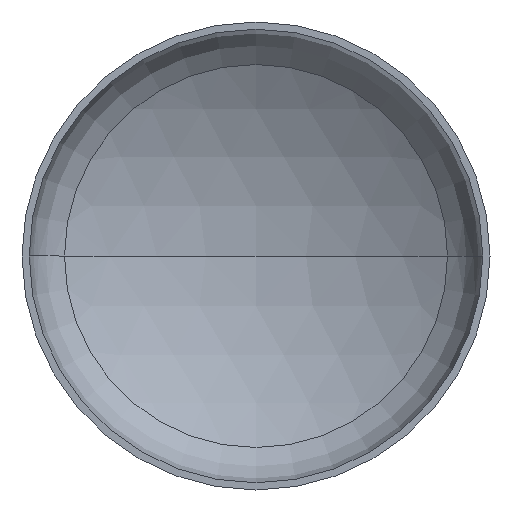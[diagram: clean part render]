
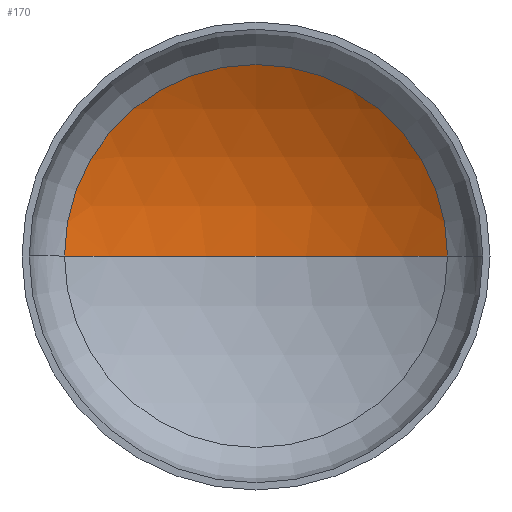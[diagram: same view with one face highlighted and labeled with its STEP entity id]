
A CAD part, front view. The second image highlights one B-rep face of the part: STEP entity #170.
In plain terms, the highlighted spherical face has radius 5600 mm.
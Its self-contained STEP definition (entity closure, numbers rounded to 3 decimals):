
#9 = ORIENTED_EDGE ( 'NONE', *, *, #112, .F. ) ;
#10 = VERTEX_POINT ( 'NONE', #400 ) ;
#36 = AXIS2_PLACEMENT_3D ( 'NONE', #320, #318, #289 ) ;
#66 = AXIS2_PLACEMENT_3D ( 'NONE', #273, #270, #272 ) ;
#71 = AXIS2_PLACEMENT_3D ( 'NONE', #244, #245, #348 ) ;
#73 = AXIS2_PLACEMENT_3D ( 'NONE', #371, #342, #334 ) ;
#75 = VERTEX_POINT ( 'NONE', #297 ) ;
#95 = ORIENTED_EDGE ( 'NONE', *, *, #108, .T. ) ;
#108 = EDGE_CURVE ( 'NONE', #10, #75, #329, .T. ) ;
#109 = ORIENTED_EDGE ( 'NONE', *, *, #111, .T. ) ;
#111 = EDGE_CURVE ( 'NONE', #185, #10, #336, .T. ) ;
#112 = EDGE_CURVE ( 'NONE', #185, #75, #279, .T. ) ;
#148 = EDGE_LOOP ( 'NONE', ( #9, #109, #95 ) ) ;
#170 = ADVANCED_FACE ( 'NONE', ( #199 ), #374, .F. ) ;
#185 = VERTEX_POINT ( 'NONE', #224 ) ;
#199 = FACE_OUTER_BOUND ( 'NONE', #148, .T. ) ;
#224 = CARTESIAN_POINT ( 'NONE',  ( 0., 1791.051, 0. ) ) ;
#244 = CARTESIAN_POINT ( 'NONE',  ( 0., -3808.949, 0. ) ) ;
#245 = DIRECTION ( 'NONE',  ( 0., 0., -1. ) ) ;
#270 = DIRECTION ( 'NONE',  ( 0., 0., 1. ) ) ;
#272 = DIRECTION ( 'NONE',  ( 1., 0., 0. ) ) ;
#273 = CARTESIAN_POINT ( 'NONE',  ( 0., -3808.949, 0. ) ) ;
#279 = CIRCLE ( 'NONE', #66, 5600. ) ;
#289 = DIRECTION ( 'NONE',  ( -1., 0., 0. ) ) ;
#297 = CARTESIAN_POINT ( 'NONE',  ( -2864.425, 1003.023, 0. ) ) ;
#318 = DIRECTION ( 'NONE',  ( 0., 0., -1. ) ) ;
#320 = CARTESIAN_POINT ( 'NONE',  ( 0., -3808.949, 0. ) ) ;
#329 = CIRCLE ( 'NONE', #73, 2864.425 ) ;
#334 = DIRECTION ( 'NONE',  ( 1., 0., 0. ) ) ;
#336 = CIRCLE ( 'NONE', #71, 5600. ) ;
#342 = DIRECTION ( 'NONE',  ( 0., -1., 0. ) ) ;
#348 = DIRECTION ( 'NONE',  ( -1., 0., 0. ) ) ;
#371 = CARTESIAN_POINT ( 'NONE',  ( 0., 1003.023, 0. ) ) ;
#374 = SPHERICAL_SURFACE ( 'NONE', #36, 5600. ) ;
#400 = CARTESIAN_POINT ( 'NONE',  ( 2864.425, 1003.023, 0. ) ) ;
